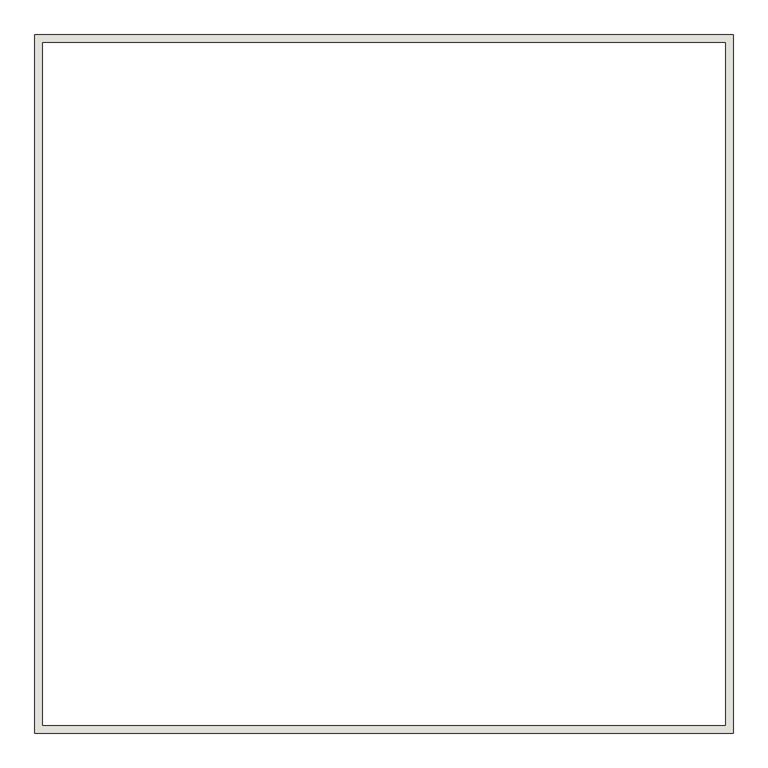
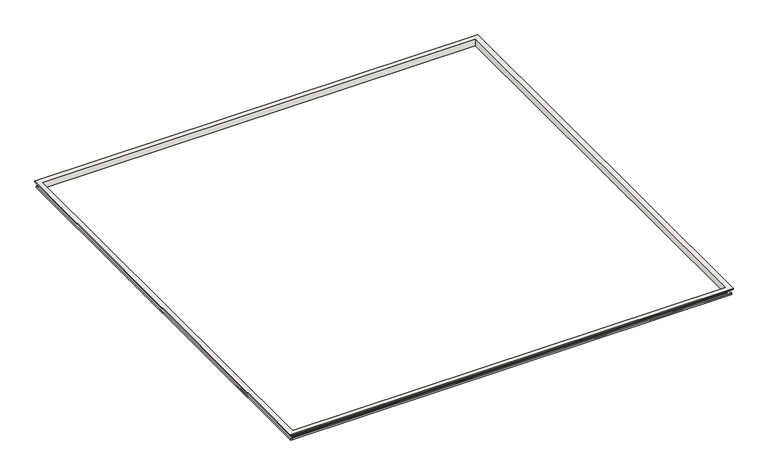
"""IFC4 building model written with IfcOpenShell, lengths in millimetres: wall geometry, CORNICE OVER ARCHES : CORNICE OVER ARCHES."""

from ifc_helpers import new_model, si_unit, frame, origin, place, context, project, spatial, polyline, ellipse_curve, source, transform, mapped, element, save
from ifc_brep_helpers import plane_surface, revolved_surface, advanced_brep


def wall_606353de(model_context):
    return source(origin(), model_context, "Body", "AdvancedBrep", [
        advanced_brep(
        [(6667.6675198, 1386.814953, 4620.0), (6667.6675198, 1386.814953, 4550.0), (-13514.8225844, 1386.814953, 4550.0), (-13514.8225844, 1386.814953, 4620.0), (6627.6675198, 1346.814953, 4590.0), (6657.6675198, 1376.814953, 4620.0), (-13504.8225844, 1376.814953, 4620.0), (-13474.8225844, 1346.814953, 4590.0), (6537.6675198, 1256.814953, 4620.0), (6537.6675198, 1256.814953, 4590.0), (-13384.8225844, 1256.814953, 4590.0), (-13384.8225844, 1256.814953, 4620.0), (6685.1675198, 1404.314953, 4813.6990522), (6685.1675198, 1404.314953, 4798.6990522), (-13532.3225844, 1404.314953, 4798.6990522), (-13532.3225844, 1404.314953, 4813.6990522), (6700.1675198, 1419.314953, 4850.0), (6700.1675198, 1419.314953, 4813.6990522), (-13547.3225844, 1419.314953, 4813.6990522), (-13547.3225844, 1419.314953, 4850.0), (6475.1675198, 1194.314953, 4550.0), (6475.1675198, 1194.314953, 4850.0), (-13322.3225844, 1194.314953, 4850.0), (-13322.3225844, 1194.314953, 4550.0), (-13514.8225844, -18795.6751511, 4550.0), (-13514.8225844, -18795.6751511, 4620.0), (-13504.8225844, -18785.6751511, 4620.0), (-13474.8225844, -18755.6751511, 4590.0), (-13384.8225844, -18665.6751511, 4590.0), (-13384.8225844, -18665.6751511, 4620.0), (-13532.3225844, -18813.1751511, 4798.6990522), (-13532.3225844, -18813.1751511, 4813.6990522), (-13547.3225844, -18828.1751511, 4813.6990522), (-13547.3225844, -18828.1751511, 4850.0), (-13322.3225844, -18603.1751511, 4850.0), (-13322.3225844, -18603.1751511, 4550.0), (6667.6675198, -18795.6751511, 4550.0), (6667.6675198, -18795.6751511, 4620.0), (6657.6675198, -18785.6751511, 4620.0), (6627.6675198, -18755.6751511, 4590.0), (6537.6675198, -18665.6751511, 4590.0), (6537.6675198, -18665.6751511, 4620.0), (6685.1675198, -18813.1751511, 4798.6990522), (6685.1675198, -18813.1751511, 4813.6990522), (6700.1675198, -18828.1751511, 4813.6990522), (6700.1675198, -18828.1751511, 4850.0), (6475.1675198, -18603.1751511, 4850.0), (6475.1675198, -18603.1751511, 4550.0), (-13497.3225844, 1369.314953, 4798.6990522), (-13497.3225844, -18778.1751511, 4798.6990522), (6650.1675198, -18778.1751511, 4798.6990522), (6650.1675198, 1369.314953, 4798.6990522)],
        [
            (0, 1),
            (1, 2),
            (2, 3),
            (3, 0),
            (4, 5, ellipse_curve(frame((6609.5814653, 1328.7288986, 4638.0860544), z_axis=(0.7071067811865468, -0.7071067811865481, 0.0), x_axis=(-0.7071067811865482, -0.7071067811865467, 0.0)), 72.6549929, 51.3748382)),
            (5, 6),
            (6, 7, ellipse_curve(frame((-13456.73653, 1328.7288986, 4638.0860544), z_axis=(-0.7071067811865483, -0.7071067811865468, 0.0), x_axis=(-0.7071067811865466, 0.7071067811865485, 0.0)), 72.6549929, 51.3748382)),
            (7, 4),
            (8, 9),
            (9, 10),
            (10, 11),
            (11, 8),
            (12, 13),
            (13, 14),
            (14, 15),
            (15, 12),
            (16, 17),
            (17, 18),
            (18, 19),
            (19, 16),
            (20, 21),
            (21, 22),
            (22, 23),
            (23, 20),
            (2, 24),
            (24, 25),
            (25, 3),
            (6, 26),
            (26, 27, ellipse_curve(frame((-13456.73653, -18737.5890967, 4638.0860544), z_axis=(0.7071067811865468, -0.7071067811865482, 0.0), x_axis=(-0.7071067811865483, -0.7071067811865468, 0.0)), 72.6549929, 51.3748382)),
            (27, 7),
            (10, 28),
            (28, 29),
            (29, 11),
            (14, 30),
            (30, 31),
            (31, 15),
            (18, 32),
            (32, 33),
            (33, 19),
            (22, 34),
            (34, 35),
            (35, 23),
            (24, 36),
            (36, 37),
            (37, 25),
            (26, 38),
            (38, 39, ellipse_curve(frame((6609.5814653, -18737.5890967, 4638.0860544), z_axis=(0.7071067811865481, 0.7071067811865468, 0.0), x_axis=(0.707106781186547, -0.707106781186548, 0.0)), 72.6549929, 51.3748382)),
            (39, 27),
            (28, 40),
            (40, 41),
            (41, 29),
            (30, 42),
            (42, 43),
            (43, 31),
            (32, 44),
            (44, 45),
            (45, 33),
            (34, 46),
            (46, 47),
            (47, 35),
            (36, 1),
            (0, 37),
            (5, 38),
            (4, 39),
            (9, 40),
            (8, 41),
            (13, 42),
            (48, 49),
            (49, 50),
            (50, 51),
            (51, 48),
            (12, 43),
            (17, 44),
            (16, 45),
            (21, 46),
            (20, 47),
            (51, 8, ellipse_curve(frame((6735.8435254, 1454.9909587, 4620.0), z_axis=(0.7071067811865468, -0.7071067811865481, 0.0), x_axis=(-0.7071067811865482, -0.7071067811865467, 0.0)), 280.2631949, 198.1760056)),
            (11, 48, ellipse_curve(frame((-13582.99859, 1454.9909587, 4620.0), z_axis=(-0.7071067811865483, -0.7071067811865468, 0.0), x_axis=(-0.7071067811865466, 0.7071067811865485, 0.0)), 280.2631949, 198.1760056)),
            (29, 49, ellipse_curve(frame((-13582.99859, -18863.8511567, 4620.0), z_axis=(0.7071067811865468, -0.7071067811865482, 0.0), x_axis=(-0.7071067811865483, -0.7071067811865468, 0.0)), 280.2631949, 198.1760056)),
            (41, 50, ellipse_curve(frame((6735.8435254, -18863.8511567, 4620.0), z_axis=(0.7071067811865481, 0.7071067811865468, 0.0), x_axis=(0.707106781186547, -0.707106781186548, 0.0)), 280.2631949, 198.1760056)),
        ],
        [
            plane_surface(frame((6667.6675198, 1386.814953, 4550.0), z_axis=(0.0, 1.0, 0.0), x_axis=(-1.0, 0.0, 0.0))),
            revolved_surface(polyline([(-13508.11136816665, 1380.1037368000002, 4638.0860544), (6660.95630346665, 1380.1037368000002, 4638.0860544)]), (6647.6675198, 1328.7288986, 4638.0860544), (-1.0, 0.0, 0.0)),
            plane_surface(frame((6537.6675198, 1256.814953, 4590.0), z_axis=(0.0, 1.0, 0.0), x_axis=(-1.0, 0.0, 0.0))),
            plane_surface(frame((6685.1675198, 1404.314953, 4798.6990522), z_axis=(0.0, 1.0, 0.0), x_axis=(-1.0, 0.0, 0.0))),
            plane_surface(frame((6700.1675198, 1419.314953, 4813.6990522), z_axis=(0.0, 1.0, 0.0), x_axis=(-1.0, 0.0, 0.0))),
            plane_surface(frame((6475.1675198, 1194.314953, 4850.0), z_axis=(0.0, -1.0, 0.0), x_axis=(-1.0, 0.0, 0.0))),
            plane_surface(frame((-13514.8225844, 1386.814953, 4550.0), z_axis=(-1.0, 0.0, 0.0), x_axis=(0.0, -1.0, 0.0))),
            revolved_surface(polyline([(-13508.1113682, -18788.963934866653, 4638.0860544), (-13508.1113682, 1380.1037367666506, 4638.0860544)]), (-13456.73653, 1366.814953, 4638.0860544), (0.0, -1.0, 0.0)),
            plane_surface(frame((-13384.8225844, 1256.814953, 4590.0), z_axis=(-1.0, 0.0, 0.0), x_axis=(0.0, -1.0, 0.0))),
            plane_surface(frame((-13532.3225844, 1404.314953, 4798.6990522), z_axis=(-1.0, 0.0, 0.0), x_axis=(0.0, -1.0, 0.0))),
            plane_surface(frame((-13547.3225844, 1419.314953, 4813.6990522), z_axis=(-1.0, 0.0, 0.0), x_axis=(0.0, -1.0, 0.0))),
            plane_surface(frame((-13322.3225844, 1194.314953, 4850.0), z_axis=(1.0, 0.0, 0.0), x_axis=(0.0, -1.0, 0.0))),
            plane_surface(frame((-13514.8225844, -18795.6751511, 4550.0), z_axis=(0.0, -1.0, 0.0), x_axis=(1.0, 0.0, 0.0))),
            revolved_surface(polyline([(6660.9563034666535, -18788.963934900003, 4638.0860544), (-13508.11136816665, -18788.963934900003, 4638.0860544)]), (-13494.8225844, -18737.5890967, 4638.0860544), (1.0, 0.0, 0.0)),
            plane_surface(frame((-13384.8225844, -18665.6751511, 4590.0), z_axis=(0.0, -1.0, 0.0), x_axis=(1.0, 0.0, 0.0))),
            plane_surface(frame((-13532.3225844, -18813.1751511, 4798.6990522), z_axis=(0.0, -1.0, 0.0), x_axis=(1.0, 0.0, 0.0))),
            plane_surface(frame((-13547.3225844, -18828.1751511, 4813.6990522), z_axis=(0.0, -1.0, 0.0), x_axis=(1.0, 0.0, 0.0))),
            plane_surface(frame((-13322.3225844, -18603.1751511, 4850.0), z_axis=(0.0, 1.0, 0.0), x_axis=(1.0, 0.0, 0.0))),
            plane_surface(frame((6667.6675198, -18795.6751511, 4550.0), z_axis=(1.0, 0.0, 0.0), x_axis=(0.0, 1.0, 0.0))),
            plane_surface(frame((6667.6675198, -18795.6751511, 4620.0), z_axis=(0.0, 0.0, 1.0), x_axis=(0.0, 1.0, 0.0))),
            revolved_surface(polyline([(6660.9563035, 1380.1037367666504, 4638.0860544), (6660.9563035, -18788.963934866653, 4638.0860544)]), (6609.5814653, -18775.6751511, 4638.0860544), (0.0, 1.0, 0.0)),
            plane_surface(frame((6627.6675198, -18755.6751511, 4590.0), z_axis=(0.0, 0.0, 1.0), x_axis=(0.0, 1.0, 0.0))),
            plane_surface(frame((6537.6675198, -18665.6751511, 4590.0), z_axis=(1.0, 0.0, 0.0), x_axis=(0.0, 1.0, 0.0))),
            plane_surface(frame((6650.1675198, -18778.1751511, 4798.6990522), z_axis=(0.0, 0.0, -1.0), x_axis=(0.0, 1.0, 0.0))),
            plane_surface(frame((6685.1675198, -18813.1751511, 4798.6990522), z_axis=(1.0, 0.0, 0.0), x_axis=(0.0, 1.0, 0.0))),
            plane_surface(frame((6685.1675198, -18813.1751511, 4813.6990522), z_axis=(0.0, 0.0, -1.0), x_axis=(0.0, 1.0, 0.0))),
            plane_surface(frame((6700.1675198, -18828.1751511, 4813.6990522), z_axis=(1.0, 0.0, 0.0), x_axis=(0.0, 1.0, 0.0))),
            plane_surface(frame((6700.1675198, -18828.1751511, 4850.0), z_axis=(0.0, 0.0, 1.0), x_axis=(0.0, 1.0, 0.0))),
            plane_surface(frame((6475.1675198, -18603.1751511, 4850.0), z_axis=(-1.0, 0.0, 0.0), x_axis=(0.0, 1.0, 0.0))),
            plane_surface(frame((6475.1675198, -18603.1751511, 4550.0), z_axis=(0.0, 0.0, -1.0), x_axis=(0.0, 1.0, 0.0))),
            revolved_surface(polyline([(-13781.174595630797, 1653.1669643, 4620.0), (6934.019531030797, 1653.1669643, 4620.0)]), (6647.6675198, 1454.9909587, 4620.0), (-1.0, 0.0, 0.0)),
            revolved_surface(polyline([(-13781.1745956, -19062.027162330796, 4620.0), (-13781.1745956, 1653.1669643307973, 4620.0)]), (-13582.99859, 1366.814953, 4620.0), (0.0, -1.0, 0.0)),
            revolved_surface(polyline([(6934.019531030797, -19062.027162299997, 4620.0), (-13781.174595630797, -19062.027162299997, 4620.0)]), (-13494.8225844, -18863.8511567, 4620.0), (1.0, 0.0, 0.0)),
            revolved_surface(polyline([(6934.019531, 1653.1669643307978, 4620.0), (6934.019531, -19062.027162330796, 4620.0)]), (6735.8435254, -18775.6751511, 4620.0), (0.0, 1.0, 0.0)),
        ],
        [
            (0, [[1, 2, 3, 4]]),
            (1, [[5, 6, 7, 8]]),
            (2, [[9, 10, 11, 12]]),
            (3, [[13, 14, 15, 16]]),
            (4, [[17, 18, 19, 20]]),
            (5, [[21, 22, 23, 24]]),
            (6, [[-3, 25, 26, 27]]),
            (7, [[-7, 28, 29, 30]]),
            (8, [[-11, 31, 32, 33]]),
            (9, [[-15, 34, 35, 36]]),
            (10, [[-19, 37, 38, 39]]),
            (11, [[-23, 40, 41, 42]]),
            (12, [[-26, 43, 44, 45]]),
            (13, [[-29, 46, 47, 48]]),
            (14, [[-32, 49, 50, 51]]),
            (15, [[-35, 52, 53, 54]]),
            (16, [[-38, 55, 56, 57]]),
            (17, [[-41, 58, 59, 60]]),
            (18, [[-44, 61, -1, 62]]),
            (19, [[-27, -45, -62, -4], [63, -46, -28, -6]]),
            (20, [[-47, -63, -5, 64]]),
            (21, [[-30, -48, -64, -8], [65, -49, -31, -10]]),
            (22, [[-50, -65, -9, 66]]),
            (23, [[67, -52, -34, -14], [68, 69, 70, 71]]),
            (24, [[-53, -67, -13, 72]]),
            (25, [[73, -55, -37, -18], [-36, -54, -72, -16]]),
            (26, [[-56, -73, -17, 74]]),
            (27, [[-39, -57, -74, -20], [75, -58, -40, -22]]),
            (28, [[-59, -75, -21, 76]]),
            (29, [[-61, -43, -25, -2], [-42, -60, -76, -24]]),
            (30, [[77, -12, 78, -71]]),
            (31, [[-78, -33, 79, -68]]),
            (32, [[-79, -51, 80, -69]]),
            (33, [[-80, -66, -77, -70]]),
        ],
    ),
    ])


if __name__ == "__main__":
    model = new_model("IFC4")
    model_context = context("Model", 3, world=origin())
    ifc_project = project(units=[si_unit("LENGTHUNIT", "METRE", prefix="MILLI")], contexts=[model_context])
    site = spatial("IfcSite", under=ifc_project)
    building = spatial("IfcBuilding", under=site)
    placement = place(None, origin())
    wall_shape = wall_606353de(model_context)
    element("IfcWall", 1, ObjectType="CORNICE OVER ARCHES : CORNICE OVER ARCHES", at=placement, inside=building, context=model_context, shape_type="MappedRepresentation", body=[
        mapped(wall_shape, transform((0.0, 0.0, 0.0), x_axis=(1.0, 0.0, 0.0), y_axis=(0.0, 1.0, 0.0), z_axis=(0.0, 0.0, 1.0))),
    ])
    save(model, "model.ifc")
